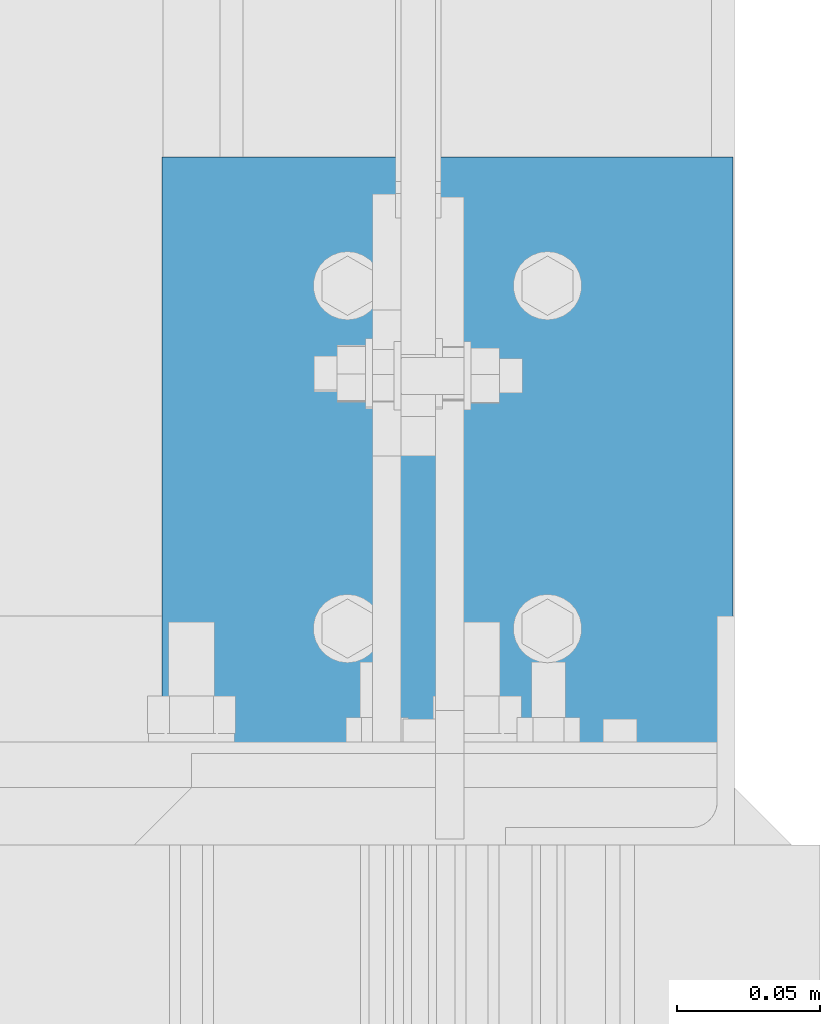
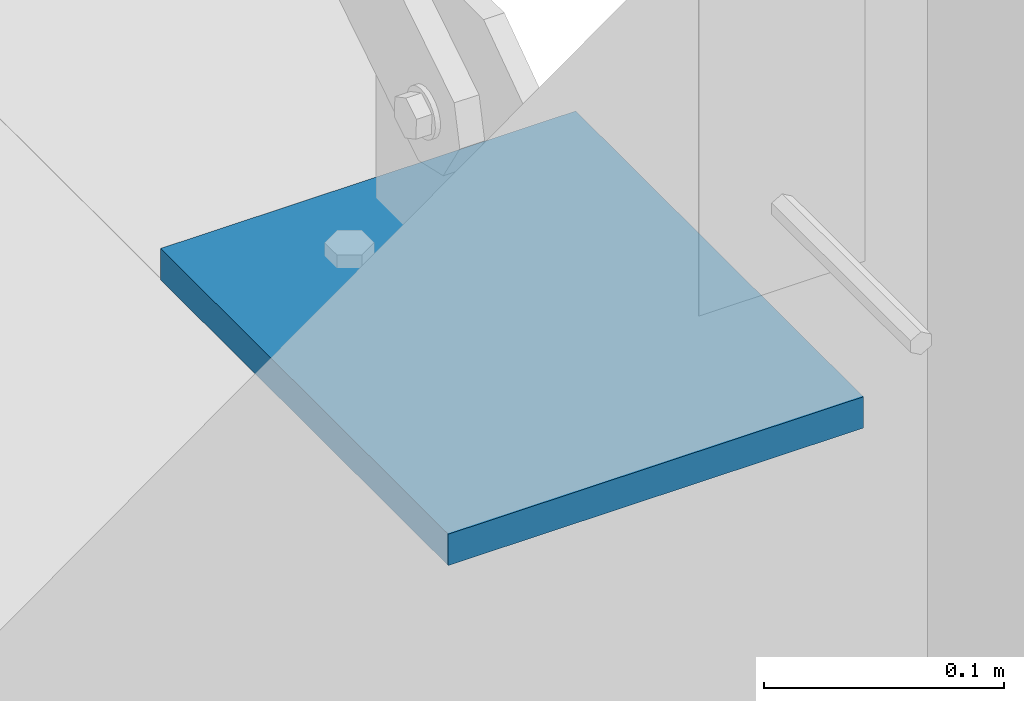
# One storey, part 81 of 271: 1 beam, 1 element without a shape of its own.
"""IFC2X3 building model written with IfcOpenShell, lengths in millimetres."""

from ifc_helpers import new_model, si_unit, frame, origin_with_axes, origin_2d_with_axis, place, context, subcontext, project, spatial, rectangle, extrude, material, type_object, element, aggregate, save


model = new_model("IFC2X3")

# Units and contexts
model_context = context("Model", 3, precision=1e-05, world=origin_with_axes())
body_context = subcontext(model_context, "Body", "Model", "MODEL_VIEW")
ifc_project = project(units=[si_unit("LENGTHUNIT", "METRE", prefix="MILLI"), si_unit("AREAUNIT", "SQUARE_METRE"), si_unit("VOLUMEUNIT", "CUBIC_METRE"), si_unit("MASSUNIT", "GRAM", prefix="KILO"), si_unit("TIMEUNIT", "SECOND"), si_unit("PLANEANGLEUNIT", "RADIAN"), si_unit("SOLIDANGLEUNIT", "STERADIAN"), si_unit("THERMODYNAMICTEMPERATUREUNIT", "DEGREE_CELSIUS"), si_unit("LUMINOUSINTENSITYUNIT", "LUMEN")], contexts=[model_context])

# Site, building, storey
site_placement = place(None, origin_with_axes())
site = spatial("IfcSite", under=ifc_project, at=site_placement, Name="Undefined", CompositionType="ELEMENT")
building_placement = place(site_placement, origin_with_axes())
building = spatial("IfcBuilding", under=site, at=building_placement, Name="Undefined", CompositionType="ELEMENT")
storey_placement = place(building_placement, origin_with_axes())
storey = spatial("IfcBuildingStorey", under=building, at=storey_placement, Name="Undefined", CompositionType="ELEMENT", Elevation=0.0)

# Assembly, beam
assembly_placement = place(storey_placement, origin_with_axes())
assembly = element("IfcElementAssembly", 1, at=assembly_placement, inside=storey, Name="BELKA", AssemblyPlace="NOTDEFINED", PredefinedType="RIGID_FRAME")
ifc_material = material(Name="STEEL/S355JR")
beam_type = type_object("IfcBeamType", Name="PL240*16", PredefinedType="NOTDEFINED")
beam_placement = place(assembly_placement, frame((12508.0, 120.0, -8.0), z_axis=(0.0, -1.0, 0.0), x_axis=(1.0, 0.0, 0.0)))
beam = element("IfcBeam", 2, at=beam_placement, type_object=beam_type, material=ifc_material, Name="BELKA", ObjectType="PL240*16", context=body_context, shape_type="SweptSolid", body=[
    extrude(rectangle(XDim=16.0, YDim=240.0, at=origin_2d_with_axis()), frame((200.0, 0.0, 0.0), z_axis=(-1.0, 0.0, 1.38777878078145e-17), x_axis=(0.0, -1.0, 0.0)), (0.0, 0.0, 1.0), 200.0),
])
aggregate(assembly, [beam])

save(model, "model.ifc")
